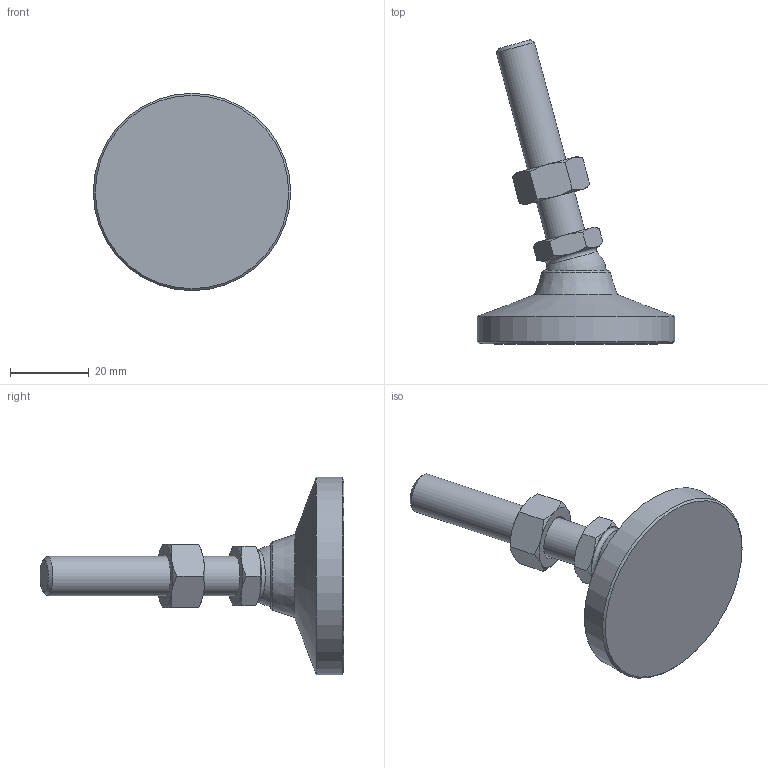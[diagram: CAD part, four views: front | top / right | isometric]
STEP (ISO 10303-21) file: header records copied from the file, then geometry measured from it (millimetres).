
FILE_DESCRIPTION( ( 'STEP AP214' ), ' ' );
FILE_NAME( 'O:/ganter_2015/teil_2/2_5/gn343_2/gn343_2_os/Levelling foot with threaded stud GN 343.2-50-M10-50-OS-(15).stp', '2015-10-26T09:07:45', ( '' ), ( '' ), ' ', 'PARTsolutions', ' ' );
FILE_SCHEMA( ( 'AUTOMOTIVE_DESIGN { 1 0 10303 214 1 1 1 1 }' ) );
Length unit declared in the file: millimetre
Products named in the file (4): Levelling foot with threaded stud GN 343.2-50-M10-50-OS-(15); _Levelling foot with threaded stud GN 343.2-50-M10-50-OS-(15)_foot; _Levelling foot with threaded stud GN 343.2-50-M10-50-OS-(15)_screw; _Stainless Steel-Levelling feet GN 343.2-50-M10-50-OS-(15)_nut
Assembly tree (3 placements, depth 2):
  Levelling foot with threaded stud GN 343.2-50-M10-50-OS-(15)
    _Levelling foot with threaded stud GN 343.2-50-M10-50-OS-(15)_foot
    _Levelling foot with threaded stud GN 343.2-50-M10-50-OS-(15)_screw
    _Stainless Steel-Levelling feet GN 343.2-50-M10-50-OS-(15)_nut
Bounding box: 50 x 77.01 x 50 mm (x, y, z)
Volume: 28144 mm3; surface area: 9213.4 mm2
Topology: 3 solids, 3 shells, 56 faces, 117 edges, 68 vertices
Faces by surface type: cone 30, plane 19, cylinder 3, torus 2, sphere 2
Full cylindrical faces by diameter (mm): 8.376 x1, 10 x1, 50 x1
Entity records: 2066 total; most frequent: CARTESIAN_POINT 498, DIRECTION 212, ORIENTED_EDGE 200, AXIS2_PLACEMENT_3D 100, EDGE_CURVE 100, EDGE_LOOP 72, VERTEX_POINT 66, FACE_OUTER_BOUND 61
